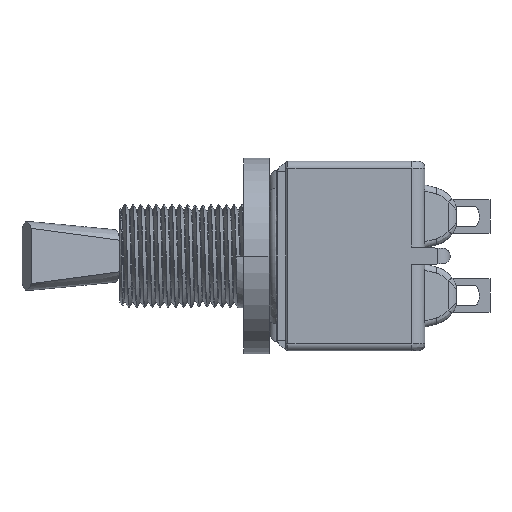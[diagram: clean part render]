
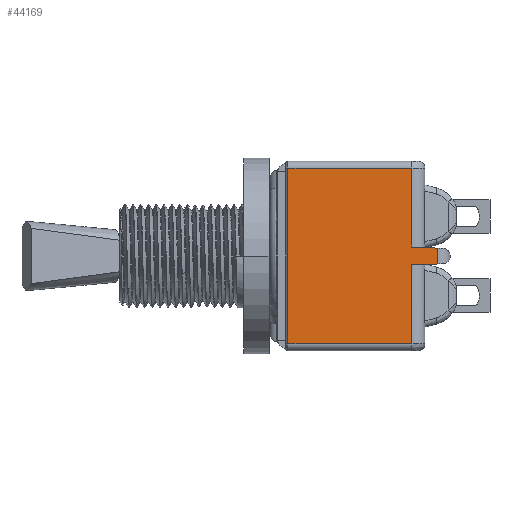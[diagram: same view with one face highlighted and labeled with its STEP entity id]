
A CAD part, left-side view. The second image highlights one B-rep face of the part: STEP entity #44169.
In plain terms, the highlighted planar face has unit normal (-1, 0, 0).
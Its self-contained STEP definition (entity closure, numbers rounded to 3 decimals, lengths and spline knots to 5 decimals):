
#933=DIRECTION('',(0.,1.,0.));
#934=VECTOR('',#933,0.2945);
#935=CARTESIAN_POINT('',(-0.25,-0.13425,-0.209));
#936=LINE('',#935,#934);
#15467=DIRECTION('',(0.,-0.999,0.035));
#15468=VECTOR('',#15467,0.06104);
#15469=CARTESIAN_POINT('',(-0.25,-0.13425,-0.02108));
#15470=LINE('',#15469,#15468);
#16665=DIRECTION('',(0.,0.,-1.));
#16666=VECTOR('',#16665,0.18792);
#16667=CARTESIAN_POINT('',(-0.25,-0.13425,-0.02108));
#16668=LINE('',#16667,#16666);
#16669=CARTESIAN_POINT('',(-0.25,-0.13425,-0.02108));
#16685=DIRECTION('',(0.,0.,1.));
#16686=VECTOR('',#16685,0.03766);
#16687=CARTESIAN_POINT('',(-0.25,-0.19525,-0.01895));
#16688=LINE('',#16687,#16686);
#16702=DIRECTION('',(0.,0.,-1.));
#16703=VECTOR('',#16702,0.418);
#16704=CARTESIAN_POINT('',(-0.25,0.16025,0.209));
#16705=LINE('',#16704,#16703);
#16741=DIRECTION('',(0.,-1.,0.));
#16742=VECTOR('',#16741,0.2945);
#16743=CARTESIAN_POINT('',(-0.25,0.16025,0.209));
#16744=LINE('',#16743,#16742);
#17413=DIRECTION('',(0.,0.999,0.043));
#17414=VECTOR('',#17413,0.06106);
#17415=CARTESIAN_POINT('',(-0.25,-0.19525,0.01871));
#17416=LINE('',#17415,#17414);
#18050=CARTESIAN_POINT('',(-0.25,-0.13425,0.02134));
#18052=DIRECTION('',(0.,0.,-1.));
#18053=VECTOR('',#18052,0.18766);
#18054=CARTESIAN_POINT('',(-0.25,-0.13425,0.209));
#18055=LINE('',#18054,#18053);
#24845=CARTESIAN_POINT('',(-0.25,-0.19525,-0.01895));
#24846=CARTESIAN_POINT('',(-0.25,-0.19525,0.01871));
#24847=VERTEX_POINT('',#24845);
#24848=VERTEX_POINT('',#24846);
#24852=VERTEX_POINT('',#16669);
#24855=VERTEX_POINT('',#18050);
#24865=CARTESIAN_POINT('',(-0.25,-0.13425,-0.209));
#24867=VERTEX_POINT('',#24865);
#24888=CARTESIAN_POINT('',(-0.25,-0.13425,0.209));
#24890=VERTEX_POINT('',#24888);
#24967=CARTESIAN_POINT('',(-0.25,0.16025,0.209));
#24968=VERTEX_POINT('',#24967);
#24971=CARTESIAN_POINT('',(-0.25,0.16025,-0.209));
#24972=VERTEX_POINT('',#24971);
#44149=CARTESIAN_POINT('',(-0.25,0.16525,-0.225));
#44150=DIRECTION('',(-1.,0.,0.));
#44151=DIRECTION('',(0.,-1.,0.));
#44152=AXIS2_PLACEMENT_3D('',#44149,#44150,#44151);
#44153=PLANE('',#44152);
#44155=ORIENTED_EDGE('',*,*,#44154,.F.);
#44157=ORIENTED_EDGE('',*,*,#44156,.T.);
#44159=ORIENTED_EDGE('',*,*,#44158,.T.);
#44161=ORIENTED_EDGE('',*,*,#44160,.F.);
#44163=ORIENTED_EDGE('',*,*,#44162,.F.);
#44164=ORIENTED_EDGE('',*,*,#42422,.F.);
#44165=ORIENTED_EDGE('',*,*,#44141,.T.);
#44166=ORIENTED_EDGE('',*,*,#29604,.T.);
#44167=EDGE_LOOP('',(#44155,#44157,#44159,#44161,#44163,#44164,#44165,#44166));
#44168=FACE_OUTER_BOUND('',#44167,.F.);
#44169=ADVANCED_FACE('',(#44168),#44153,.T.);
#29604=EDGE_CURVE('',#24867,#24972,#936,.T.);
#42422=EDGE_CURVE('',#24852,#24847,#15470,.T.);
#44141=EDGE_CURVE('',#24852,#24867,#16668,.T.);
#44154=EDGE_CURVE('',#24968,#24972,#16705,.T.);
#44156=EDGE_CURVE('',#24968,#24890,#16744,.T.);
#44158=EDGE_CURVE('',#24890,#24855,#18055,.T.);
#44160=EDGE_CURVE('',#24848,#24855,#17416,.T.);
#44162=EDGE_CURVE('',#24847,#24848,#16688,.T.);
